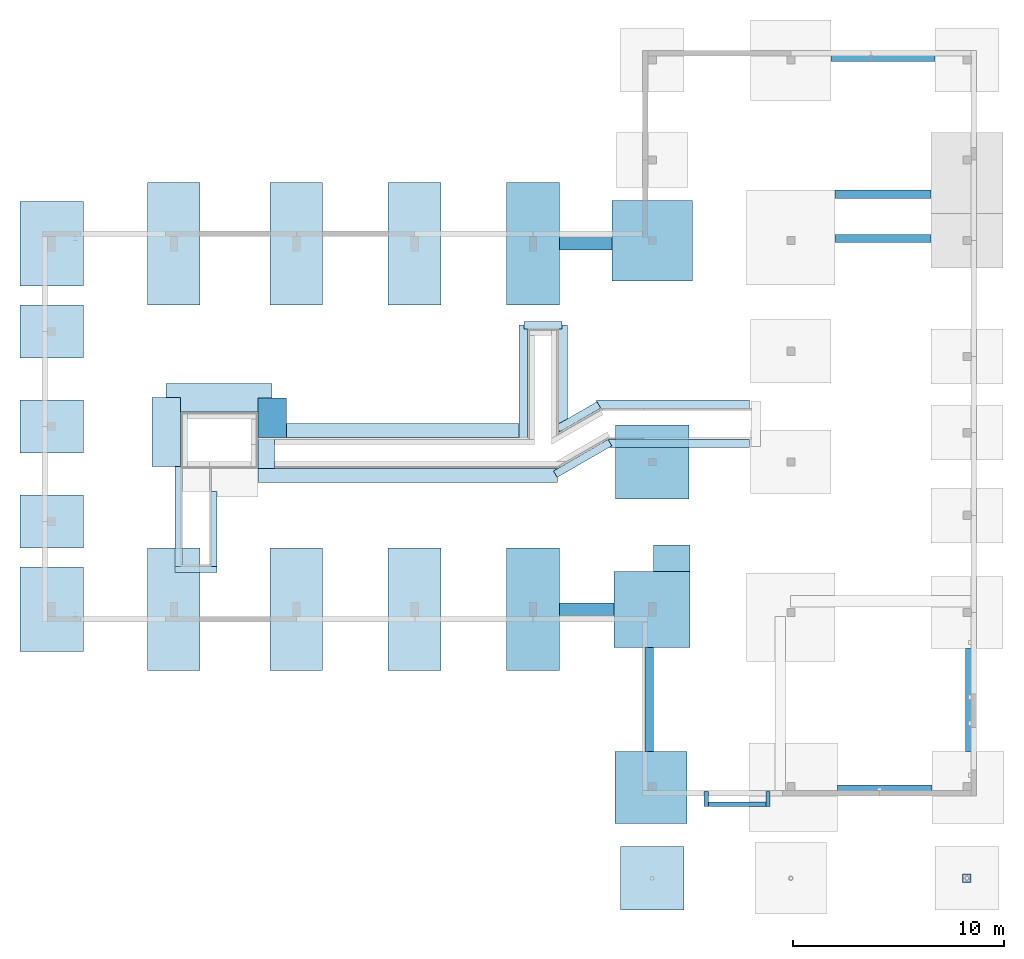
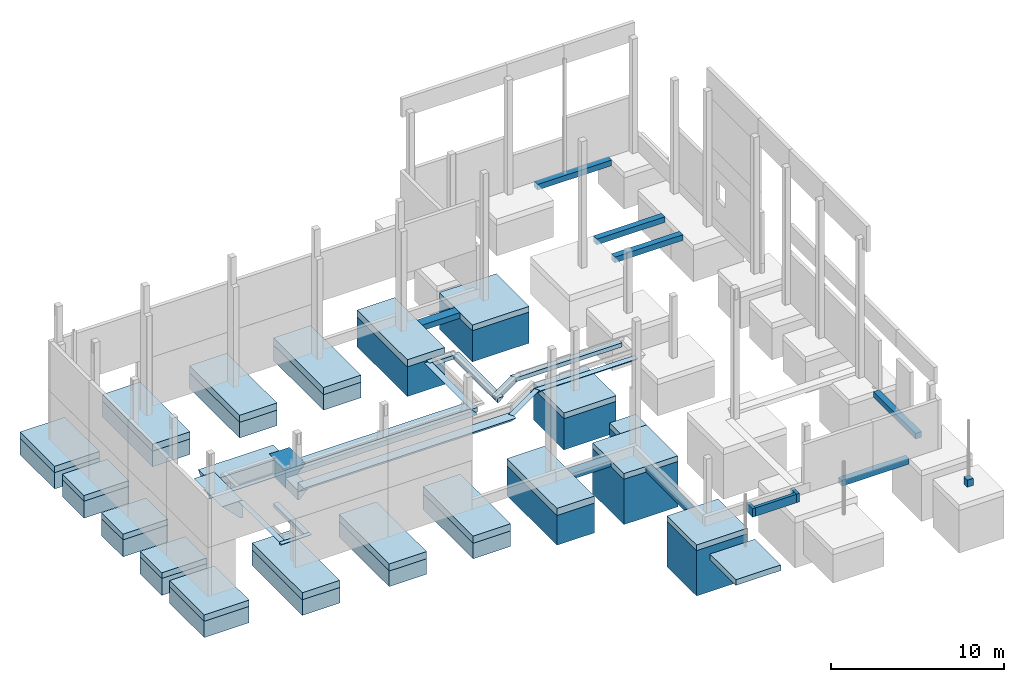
# One storey, part 7 of 12: 53 slabs, 11 beams, 1 column.
"""IFC4X3_ADD2 building model written with IfcOpenShell, lengths in millimetres."""

from ifc_helpers import new_model, si_unit, direction, frame, frame_2d, origin_with_axes, place, context, subcontext, project, spatial, polyline, rectangle, outline, extrude, source, transform, mapped, material, type_object, type_shapes, element, save


model = new_model("IFC4X3_ADD2")

# Units and contexts
model_context = context("Model", 3, precision=1e-05, world=origin_with_axes(), true_north=direction((0.0, 1.0)))
body_context = subcontext(model_context, "Body", "Model", "MODEL_VIEW")
ifc_project = project(units=[si_unit("LENGTHUNIT", "METRE", prefix="MILLI"), si_unit("AREAUNIT", "SQUARE_METRE"), si_unit("VOLUMEUNIT", "CUBIC_METRE"), si_unit("PLANEANGLEUNIT", "RADIAN"), si_unit("TIMEUNIT", "SECOND"), si_unit("MASSUNIT", "GRAM")], contexts=[model_context])

# Site, building, storey
site_placement = place(None, origin_with_axes())
site = spatial("IfcSite", under=ifc_project, at=site_placement, Name="Site", CompositionType="ELEMENT")
building_placement = place(site_placement, origin_with_axes())
building = spatial("IfcBuilding", under=site, at=building_placement, Name="IFC Building Story")
storey_placement = place(building_placement, frame((0.0, 0.0, -800.0), z_axis=(0.0, 0.0, 1.0), x_axis=(1.0, 0.0, 0.0)))
storey = spatial("IfcBuildingStorey", under=building, at=storey_placement, Name="FOND 00 (0)", Elevation=-800.0)

# Column
ifc_material_1 = material(Name="BS_16_Plot en béton armé coulé sur place")
column_type = type_object("IfcColumnType", Name="BS_16_SFO_LE_Colonne rectangulaire_coulé_B.A. 40x40cm", PredefinedType="NOTDEFINED")
shared_shape = source(origin_with_axes(), body_context, "Body", "SweptSolid", [
    extrude(rectangle(XDim=399.9999999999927, YDim=400.0, at=frame_2d((0.0, 5.95523630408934e-12), x_axis=(1.0, 0.0))), frame((48301.68947815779, -12385.0000000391, -790.0), z_axis=(0.0, 0.0, 1.0), x_axis=(1.0, 0.0, 0.0)), (0.0, 0.0, 1.0), 500.0),
])
type_shapes(column_type, [shared_shape])
column_placement = place(storey_placement, frame((0.0, 0.0, 800.0), z_axis=(0.0, 0.0, 1.0), x_axis=(1.0, 0.0, 0.0)))
element("IfcColumn", 1, at=column_placement, inside=storey, type_object=column_type, material=ifc_material_1, Name="BS_16_SFO_LE_Colonne rectangulaire_coulé:B.A. 40x40cm", ObjectType="B.A. 40x40cm", context=body_context, shape_type="MappedRepresentation", body=[
    mapped(shared_shape, transform((0.0, 0.0, 0.0))),
])

# Beams
beam_1_placement = place(storey_placement, frame((38786.6894775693, -8878.83973985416, 300.0), z_axis=(-1.0, 0.0, 0.0), x_axis=(0.0, 0.0, -1.0)))
element("IfcBeam", 2, at=beam_1_placement, inside=storey, material=ifc_material_1, Name="BS_17_SFO_LE_Poutre de fondation:B.A. 20x60cm", ObjectType="B.A. 20x60cm", context=body_context, shape_type="SweptSolid", body=[
    extrude(rectangle(XDim=600.0, YDim=200.000000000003, at=frame_2d((0.0, 5.95523630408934e-12), x_axis=(1.0, 0.0))), origin_with_axes(), (0.0, 0.0, 1.0), 2729.999999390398),
])
beam_2_placement = place(storey_placement, frame((38886.6894781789, -8978.839739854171, 300.0), z_axis=(0.0, 1.0, 0.0), x_axis=(0.0, 0.0, -1.0)))
element("IfcBeam", 3, at=beam_2_placement, inside=storey, material=ifc_material_1, Name="BS_17_SFO_LE_Poutre de fondation:B.A. 20x60cm", ObjectType="B.A. 20x60cm", context=body_context, shape_type="SweptSolid", body=[
    extrude(rectangle(XDim=600.0, YDim=200.000000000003, at=frame_2d((0.0, 5.95523630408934e-12), x_axis=(1.0, 0.0))), origin_with_axes(), (0.0, 0.0, 1.0), 709.1298265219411),
])
beam_3_placement = place(storey_placement, frame((35956.6894781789, -8978.839739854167, 300.0), z_axis=(0.0, 1.0, 0.0), x_axis=(0.0, 0.0, -1.0)))
element("IfcBeam", 4, at=beam_3_placement, inside=storey, material=ifc_material_1, Name="BS_17_SFO_LE_Poutre de fondation:B.A. 20x60cm", ObjectType="B.A. 20x60cm", context=body_context, shape_type="SweptSolid", body=[
    extrude(rectangle(XDim=600.0, YDim=200.000000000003, at=frame_2d((0.0, 5.95523630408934e-12), x_axis=(1.0, 0.0))), origin_with_axes(), (0.0, 0.0, 1.0), 709.1298265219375),
])
beam_4_placement = place(storey_placement, frame((29001.6894781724, 350.0, -200.0), z_axis=(1.0, 0.0, 0.0), x_axis=(0.0, 0.0, 1.0)))
element("IfcBeam", 5, at=beam_4_placement, inside=storey, material=ifc_material_1, Name="BS_17_SFO_LE_Poutre de fondation:B.A. 60x40cm", ObjectType="B.A. 60x40cm", context=body_context, shape_type="SweptSolid", body=[
    extrude(rectangle(XDim=400.0, YDim=600.000000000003, at=frame_2d((0.0, 5.95523630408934e-12), x_axis=(1.0, 0.0))), origin_with_axes(), (0.0, 0.0, 1.0), 2599.99999999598),
])
beam_5_placement = place(storey_placement, frame((29001.6894781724, 17650.0, -200.0), z_axis=(1.0, 0.0, 0.0), x_axis=(0.0, 0.0, 1.0)))
element("IfcBeam", 6, at=beam_5_placement, inside=storey, material=ifc_material_1, Name="BS_17_SFO_LE_Poutre de fondation:B.A. 60x40cm", ObjectType="B.A. 60x40cm", context=body_context, shape_type="SweptSolid", body=[
    extrude(rectangle(XDim=400.0, YDim=600.000000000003, at=frame_2d((0.0, 5.95523630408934e-12), x_axis=(1.0, 0.0))), origin_with_axes(), (0.0, 0.0, 1.0), 2500.000000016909),
])
beam_6_placement = place(storey_placement, frame((46801.68947815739, 26483.5000000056, -200.0), z_axis=(-1.0, 0.0, 0.0), x_axis=(0.0, -1.0, 0.0)))
element("IfcBeam", 7, at=beam_6_placement, inside=storey, material=ifc_material_1, Name="BS_17_SFO_LE_Poutre de fondation:B.A. 40x40cm", ObjectType="B.A. 40x40cm", context=body_context, shape_type="SweptSolid", body=[
    extrude(rectangle(XDim=400.0, YDim=400.000000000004, at=frame_2d((0.0, 5.95523630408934e-12), x_axis=(1.0, 0.0))), origin_with_axes(), (0.0, 0.0, 1.0), 4939.99999999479),
])
beam_7_placement = place(storey_placement, frame((46656.68947815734, -8163.500086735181, -200.0), z_axis=(-1.0, 0.0, 0.0), x_axis=(0.0, -1.0, 0.0)))
element("IfcBeam", 8, at=beam_7_placement, inside=storey, material=ifc_material_1, Name="BS_17_SFO_LE_Poutre de fondation:B.A. 40x40cm", ObjectType="B.A. 40x40cm", context=body_context, shape_type="SweptSolid", body=[
    extrude(rectangle(XDim=400.0, YDim=400.000000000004, at=frame_2d((0.0, 5.95523630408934e-12), x_axis=(1.0, 0.0))), origin_with_axes(), (0.0, 0.0, 1.0), 4479.999999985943),
])
beam_8_placement = place(storey_placement, frame((48435.1894781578, -1500.00000000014, -200.0), z_axis=(0.0, -1.0, 0.0), x_axis=(1.0, 0.0, 0.0)))
element("IfcBeam", 9, at=beam_8_placement, inside=storey, material=ifc_material_1, Name="BS_17_SFO_LE_Poutre de fondation:B.A. 40x40cm", ObjectType="B.A. 40x40cm", context=body_context, shape_type="SweptSolid", body=[
    extrude(rectangle(XDim=400.0, YDim=400.000000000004, at=frame_2d((0.0, 5.95523630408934e-12), x_axis=(1.0, 0.0))), origin_with_axes(), (0.0, 0.0, 1.0), 4880.00008672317),
])
beam_9_placement = place(storey_placement, frame((33268.1894781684, -1450.000000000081, -200.0), z_axis=(0.0, -1.0, 0.0), x_axis=(1.0, 0.0, 0.0)))
element("IfcBeam", 10, at=beam_9_placement, inside=storey, material=ifc_material_1, Name="BS_17_SFO_LE_Poutre de fondation:B.A. 40x40cm", ObjectType="B.A. 40x40cm", context=body_context, shape_type="SweptSolid", body=[
    extrude(rectangle(XDim=400.0, YDim=400.000000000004, at=frame_2d((0.0, 5.95523630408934e-12), x_axis=(1.0, 0.0))), origin_with_axes(), (0.0, 0.0, 1.0), 4930.000086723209),
])
for number, where, z_axis, x_axis in (
    (11, (46601.68947815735, 19995.0000000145, -200.0), (-1.0, 0.0, 0.0), (0.0, -1.0, 0.0)),
    (12, (46601.68947815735, 17905.0000000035, -200.0), (-1.0, 0.0, 0.0), (0.0, -1.0, 0.0)),
):
    element("IfcBeam", number, at=place(storey_placement, frame(where, z_axis=z_axis, x_axis=x_axis)), inside=storey, material=ifc_material_1, Name="BS_17_SFO_LE_Poutre de fondation:B.A. 40x40cm", ObjectType="B.A. 40x40cm", context=body_context, shape_type="SweptSolid", body=[
        extrude(rectangle(XDim=400.0, YDim=400.000000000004, at=frame_2d((0.0, 5.95523630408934e-12), x_axis=(1.0, 0.0))), origin_with_axes(), (0.0, 0.0, 1.0), 4539.999999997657),
    ])

# Slabs
slab_type_1 = type_object("IfcSlabType", Name="BS_16_Plot en béton armé coulé sur place 450", PredefinedType="FLOOR", material=ifc_material_1)
for number, where, z_axis, x_axis in (
    (13, (3470.0, 19650.0, -450.0), (0.0, 0.0, 1.0), (0.0, -1.0, 0.0)),
    (14, (3470.0, 2350.0, -450.0), (0.0, 0.0, 1.0), (0.0, -1.0, 0.0)),
):
    element("IfcSlab", number, at=place(storey_placement, frame(where, z_axis=z_axis, x_axis=x_axis)), inside=storey, type_object=slab_type_1, Name="BS_17_SFO_UN_Plot rectangulaire:B.A. 300x400x45cm", ObjectType="BS_17_SFO_UN_Plot rectangulaire:B.A. 300x400x45cm", PredefinedType="BASESLAB", context=body_context, shape_type="SweptSolid", body=[
        extrude(rectangle(XDim=4000.0, YDim=3000.0, at=frame_2d((0.0, 5.95523630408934e-12), x_axis=(-1.0, 0.0))), frame((2000.0, 1500.0, 0.0), z_axis=(0.0, 0.0, 1.0), x_axis=(1.0, 0.0, 0.0)), (0.0, 0.0, 1.0), 450.0),
    ])
slab_type_2 = type_object("IfcSlabType", Name="BS_16_Plot en béton armé coulé sur place 400", PredefinedType="FLOOR", material=ifc_material_1)
for number, where, z_axis, x_axis in (
    (15, (3470.0, 3250.0, -400.0), (0.0, 0.0, 1.0), (1.0, 0.0, 0.0)),
    (16, (3470.0, 7750.0, -400.0), (0.0, 0.0, 1.0), (1.0, 0.0, 0.0)),
    (17, (3470.0, 12250.0, -400.0), (0.0, 0.0, 1.0), (1.0, 0.0, 0.0)),
):
    element("IfcSlab", number, at=place(storey_placement, frame(where, z_axis=z_axis, x_axis=x_axis)), inside=storey, type_object=slab_type_2, Name="BS_17_SFO_UN_Plot rectangulaire:B.A. 300x250x40cm", ObjectType="BS_17_SFO_UN_Plot rectangulaire:B.A. 300x250x40cm", PredefinedType="BASESLAB", context=body_context, shape_type="SweptSolid", body=[
        extrude(rectangle(XDim=3000.0, YDim=2500.0, at=frame_2d((0.0, 5.95523630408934e-12), x_axis=(1.0, 0.0))), frame((1500.0, 1250.0, 0.0), z_axis=(0.0, 0.0, 1.0), x_axis=(1.0, 0.0, 0.0)), (0.0, 0.0, 1.0), 400.0),
    ])
slab_1_placement = place(storey_placement, frame((31601.68947816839, -1450.0, -400.0), z_axis=(0.0, 0.0, 1.0), x_axis=(1.0, 0.0, 0.0)))
element("IfcSlab", 18, at=slab_1_placement, inside=storey, type_object=slab_type_2, Name="BS_17_SFO_UN_Plot rectangulaire:B.A. 485x360x40cm", ObjectType="BS_17_SFO_UN_Plot rectangulaire:B.A. 485x360x40cm", PredefinedType="BASESLAB", context=body_context, shape_type="SweptSolid", body=[
    extrude(rectangle(XDim=3600.0, YDim=3600.0, at=frame_2d((0.0, 5.95523630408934e-12), x_axis=(0.0, 1.0))), frame((1800.0, 1800.0, 0.0), z_axis=(0.0, 0.0, 1.0), x_axis=(1.0, 0.0, 0.0)), (0.0, 0.0, 1.0), 400.0),
])
slab_2_placement = place(storey_placement, frame((31651.6894781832, 9078.839653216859, -400.0), z_axis=(0.0, 0.0, 1.0), x_axis=(0.0, -1.0, 0.0)))
element("IfcSlab", 19, at=slab_2_placement, inside=storey, type_object=slab_type_2, Name="BS_17_SFO_UN_Plot rectangulaire:B.A. 350x350x40cm", ObjectType="BS_17_SFO_UN_Plot rectangulaire:B.A. 350x350x40cm", PredefinedType="BASESLAB", context=body_context, shape_type="SweptSolid", body=[
    extrude(rectangle(XDim=3499.999999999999, YDim=3499.999999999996, at=frame_2d((0.0, 5.95523630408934e-12), x_axis=(-1.0, 0.0))), frame((1749.999999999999, 1749.999999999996, 0.0), z_axis=(0.0, 0.0, 1.0), x_axis=(1.0, 0.0, 0.0)), (0.0, 0.0, 1.0), 400.0),
])
slab_3_placement = place(storey_placement, frame((31646.6894781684, -9780.00008672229, -400.0), z_axis=(0.0, 0.0, 1.0), x_axis=(1.0, 0.0, 0.0)))
element("IfcSlab", 20, at=slab_3_placement, inside=storey, type_object=slab_type_2, Name="BS_17_SFO_UN_Plot rectangulaire:B.A. 340x340x40cm", ObjectType="BS_17_SFO_UN_Plot rectangulaire:B.A. 340x340x40cm", PredefinedType="BASESLAB", context=body_context, shape_type="SweptSolid", body=[
    extrude(rectangle(XDim=3400.0, YDim=3400.0, at=frame_2d((0.0, 5.95523630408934e-12), x_axis=(0.0, 1.0))), frame((1700.0, 1700.0, 0.0), z_axis=(0.0, 0.0, 1.0), x_axis=(1.0, 0.0, 0.0)), (0.0, 0.0, 1.0), 400.0),
])
slab_4_placement = place(storey_placement, frame((31501.6894781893, 15900.0, -400.0), z_axis=(0.0, 0.0, 1.0), x_axis=(1.0, 0.0, 0.0)))
element("IfcSlab", 21, at=slab_4_placement, inside=storey, type_object=slab_type_2, Name="BS_17_SFO_UN_Plot rectangulaire:B.A. 380x380x40cm", ObjectType="BS_17_SFO_UN_Plot rectangulaire:B.A. 380x380x40cm", PredefinedType="BASESLAB", context=body_context, shape_type="SweptSolid", body=[
    extrude(rectangle(XDim=3800.0, YDim=3800.0, at=frame_2d((0.0, 5.95523630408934e-12), x_axis=(0.0, 1.0))), frame((1900.0, 1900.0, 0.0), z_axis=(0.0, 0.0, 1.0), x_axis=(1.0, 0.0, 0.0)), (0.0, 0.0, 1.0), 400.0),
])
slab_5_placement = place(storey_placement, frame((33451.6894781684, 2149.99999999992, -400.0), z_axis=(0.0, 0.0, 1.0), x_axis=(1.0, 0.0, 0.0)))
element("IfcSlab", 22, at=slab_5_placement, inside=storey, type_object=slab_type_2, Name="BS_17_SFO_UN_Plot rectangulaire:B.A. 175x125x40cm", ObjectType="BS_17_SFO_UN_Plot rectangulaire:B.A. 175x125x40cm", PredefinedType="BASESLAB", context=body_context, shape_type="SweptSolid", body=[
    extrude(rectangle(XDim=1750.0, YDim=1250.0, at=frame_2d((0.0, 5.95523630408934e-12), x_axis=(1.0, 0.0))), frame((875.0, 625.0, 0.0), z_axis=(0.0, 0.0, 1.0), x_axis=(1.0, 0.0, 0.0)), (0.0, 0.0, 1.0), 400.0),
])
slab_6_placement = place(storey_placement, frame((31901.6894781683, -13888.486405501, -450.0), z_axis=(0.0, 0.0, 1.0), x_axis=(1.0, 0.0, 0.0)))
element("IfcSlab", 23, at=slab_6_placement, inside=storey, type_object=slab_type_2, Name="BS_17_SFO_UN_Plot rectangulaire:B.A. 300x300x40cm", ObjectType="BS_17_SFO_UN_Plot rectangulaire:B.A. 300x300x40cm", PredefinedType="BASESLAB", context=body_context, shape_type="SweptSolid", body=[
    extrude(rectangle(XDim=3000.0, YDim=3000.0, at=frame_2d((0.0, 5.95523630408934e-12), x_axis=(0.0, 1.0))), frame((1500.0, 1500.0, 0.0), z_axis=(0.0, 0.0, 1.0), x_axis=(1.0, 0.0, 0.0)), (0.0, 0.0, 1.0), 400.0),
])
ifc_material_2 = material(Name="BS_16_Plot en béton maigre")
slab_type_3 = type_object("IfcSlabType", Name="BS_16_Plot en béton maigre 1100", PredefinedType="FLOOR", material=ifc_material_2)
slab_7_placement = place(storey_placement, frame((9501.6894781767, 20550.0, -1600.0), z_axis=(0.0, 0.0, 1.0), x_axis=(0.0, -1.0, 0.0)))
element("IfcSlab", 24, at=slab_7_placement, inside=storey, type_object=slab_type_3, Name="BS_17_SFO_UN_Plot rectangulaire:B.A. 250x580x110cm (béton maigre)", ObjectType="BS_17_SFO_UN_Plot rectangulaire:B.A. 250x580x110cm (béton maigre)", PredefinedType="BASESLAB", context=body_context, shape_type="SweptSolid", body=[
    extrude(rectangle(XDim=5800.0, YDim=2500.0, at=frame_2d((0.0, 5.95523630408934e-12), x_axis=(-1.0, 0.0))), frame((2900.0, 1250.0, 0.0), z_axis=(0.0, 0.0, 1.0), x_axis=(1.0, 0.0, 0.0)), (0.0, 0.0, 1.0), 1100.0),
])
slab_8_placement = place(storey_placement, frame((15301.6894781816, 20550.0, -1600.0), z_axis=(0.0, 0.0, 1.0), x_axis=(0.0, -1.0, 0.0)))
element("IfcSlab", 25, at=slab_8_placement, inside=storey, type_object=slab_type_3, Name="BS_17_SFO_UN_Plot rectangulaire:B.A. 250x580x110cm (béton maigre)", ObjectType="BS_17_SFO_UN_Plot rectangulaire:B.A. 250x580x110cm (béton maigre)", PredefinedType="BASESLAB", context=body_context, shape_type="SweptSolid", body=[
    extrude(rectangle(XDim=5800.0, YDim=2500.000000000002, at=frame_2d((0.0, 5.95523630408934e-12), x_axis=(-1.0, 0.0))), frame((2900.0, 1250.0, 0.0), z_axis=(0.0, 0.0, 1.0), x_axis=(1.0, 0.0, 0.0)), (0.0, 0.0, 1.0), 1100.0),
])
for number, where, z_axis, x_axis in (
    (26, (20901.6894781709, 20550.0, -1600.0), (0.0, 0.0, 1.0), (0.0, -1.0, 0.0)),
    (27, (9501.6894781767, 3250.0, -1600.0), (0.0, 0.0, 1.0), (0.0, -1.0, 0.0)),
):
    element("IfcSlab", number, at=place(storey_placement, frame(where, z_axis=z_axis, x_axis=x_axis)), inside=storey, type_object=slab_type_3, Name="BS_17_SFO_UN_Plot rectangulaire:B.A. 250x580x110cm (béton maigre)", ObjectType="BS_17_SFO_UN_Plot rectangulaire:B.A. 250x580x110cm (béton maigre)", PredefinedType="BASESLAB", context=body_context, shape_type="SweptSolid", body=[
        extrude(rectangle(XDim=5800.0, YDim=2500.0, at=frame_2d((0.0, 5.95523630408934e-12), x_axis=(-1.0, 0.0))), frame((2900.0, 1250.0, 0.0), z_axis=(0.0, 0.0, 1.0), x_axis=(1.0, 0.0, 0.0)), (0.0, 0.0, 1.0), 1100.0),
    ])
slab_9_placement = place(storey_placement, frame((15301.6894781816, 3250.0, -1600.0), z_axis=(0.0, 0.0, 1.0), x_axis=(0.0, -1.0, 0.0)))
element("IfcSlab", 28, at=slab_9_placement, inside=storey, type_object=slab_type_3, Name="BS_17_SFO_UN_Plot rectangulaire:B.A. 250x580x110cm (béton maigre)", ObjectType="BS_17_SFO_UN_Plot rectangulaire:B.A. 250x580x110cm (béton maigre)", PredefinedType="BASESLAB", context=body_context, shape_type="SweptSolid", body=[
    extrude(rectangle(XDim=5800.0, YDim=2500.000000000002, at=frame_2d((0.0, 5.95523630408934e-12), x_axis=(-1.0, 0.0))), frame((2900.0, 1250.0, 0.0), z_axis=(0.0, 0.0, 1.0), x_axis=(1.0, 0.0, 0.0)), (0.0, 0.0, 1.0), 1100.0),
])
slab_10_placement = place(storey_placement, frame((20901.6894781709, 3250.0, -1600.0), z_axis=(0.0, 0.0, 1.0), x_axis=(0.0, -1.0, 0.0)))
element("IfcSlab", 29, at=slab_10_placement, inside=storey, type_object=slab_type_3, Name="BS_17_SFO_UN_Plot rectangulaire:B.A. 250x580x110cm (béton maigre)", ObjectType="BS_17_SFO_UN_Plot rectangulaire:B.A. 250x580x110cm (béton maigre)", PredefinedType="BASESLAB", context=body_context, shape_type="SweptSolid", body=[
    extrude(rectangle(XDim=5800.0, YDim=2500.0, at=frame_2d((0.0, 5.95523630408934e-12), x_axis=(-1.0, 0.0))), frame((2900.0, 1250.0, 0.0), z_axis=(0.0, 0.0, 1.0), x_axis=(1.0, 0.0, 0.0)), (0.0, 0.0, 1.0), 1100.0),
])
slab_type_4 = type_object("IfcSlabType", Name="BS_16_Plot en béton armé coulé sur place 500", PredefinedType="FLOOR", material=ifc_material_1)
slab_11_placement = place(storey_placement, frame((15301.6894781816, 20550.0, -500.0), z_axis=(0.0, 0.0, 1.0), x_axis=(0.0, -1.0, 0.0)))
element("IfcSlab", 30, at=slab_11_placement, inside=storey, type_object=slab_type_4, Name="BS_17_SFO_UN_Plot rectangulaire:B.A. 250x580x50cm", ObjectType="BS_17_SFO_UN_Plot rectangulaire:B.A. 250x580x50cm", PredefinedType="BASESLAB", context=body_context, shape_type="SweptSolid", body=[
    extrude(rectangle(XDim=5800.0, YDim=2500.000000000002, at=frame_2d((0.0, 5.95523630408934e-12), x_axis=(-1.0, 0.0))), frame((2900.0, 1250.0, 0.0), z_axis=(0.0, 0.0, 1.0), x_axis=(1.0, 0.0, 0.0)), (0.0, 0.0, 1.0), 500.0),
])
for number, where, z_axis, x_axis in (
    (31, (20901.6894781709, 20550.0, -500.0), (0.0, 0.0, 1.0), (0.0, -1.0, 0.0)),
    (32, (26501.6894781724, 20550.0, -500.0), (0.0, 0.0, 1.0), (0.0, -1.0, 0.0)),
    (33, (9501.689478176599, 3250.0, -500.0), (0.0, 0.0, 1.0), (0.0, -1.0, 0.0)),
):
    element("IfcSlab", number, at=place(storey_placement, frame(where, z_axis=z_axis, x_axis=x_axis)), inside=storey, type_object=slab_type_4, Name="BS_17_SFO_UN_Plot rectangulaire:B.A. 250x580x50cm", ObjectType="BS_17_SFO_UN_Plot rectangulaire:B.A. 250x580x50cm", PredefinedType="BASESLAB", context=body_context, shape_type="SweptSolid", body=[
        extrude(rectangle(XDim=5800.0, YDim=2500.0, at=frame_2d((0.0, 5.95523630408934e-12), x_axis=(-1.0, 0.0))), frame((2900.0, 1250.0, 0.0), z_axis=(0.0, 0.0, 1.0), x_axis=(1.0, 0.0, 0.0)), (0.0, 0.0, 1.0), 500.0),
    ])
slab_12_placement = place(storey_placement, frame((15301.6894781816, 3250.0, -500.0), z_axis=(0.0, 0.0, 1.0), x_axis=(0.0, -1.0, 0.0)))
element("IfcSlab", 34, at=slab_12_placement, inside=storey, type_object=slab_type_4, Name="BS_17_SFO_UN_Plot rectangulaire:B.A. 250x580x50cm", ObjectType="BS_17_SFO_UN_Plot rectangulaire:B.A. 250x580x50cm", PredefinedType="BASESLAB", context=body_context, shape_type="SweptSolid", body=[
    extrude(rectangle(XDim=5800.0, YDim=2500.000000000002, at=frame_2d((0.0, 5.95523630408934e-12), x_axis=(-1.0, 0.0))), frame((2900.0, 1250.0, 0.0), z_axis=(0.0, 0.0, 1.0), x_axis=(1.0, 0.0, 0.0)), (0.0, 0.0, 1.0), 500.0),
])
for number, where, z_axis, x_axis in (
    (35, (20901.6894781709, 3250.0, -500.0), (0.0, 0.0, 1.0), (0.0, -1.0, 0.0)),
    (36, (26501.6894781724, 3250.0, -500.0), (0.0, 0.0, 1.0), (0.0, -1.0, 0.0)),
    (37, (9501.6894781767, 20550.0, -500.0), (0.0, 0.0, 1.0), (0.0, -1.0, 0.0)),
):
    element("IfcSlab", number, at=place(storey_placement, frame(where, z_axis=z_axis, x_axis=x_axis)), inside=storey, type_object=slab_type_4, Name="BS_17_SFO_UN_Plot rectangulaire:B.A. 250x580x50cm", ObjectType="BS_17_SFO_UN_Plot rectangulaire:B.A. 250x580x50cm", PredefinedType="BASESLAB", context=body_context, shape_type="SweptSolid", body=[
        extrude(rectangle(XDim=5800.0, YDim=2500.0, at=frame_2d((0.0, 5.95523630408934e-12), x_axis=(-1.0, 0.0))), frame((2900.0, 1250.0, 0.0), z_axis=(0.0, 0.0, 1.0), x_axis=(1.0, 0.0, 0.0)), (0.0, 0.0, 1.0), 500.0),
    ])
slab_type_5 = type_object("IfcSlabType", Name="BS_16_Plot en béton maigre 2100", PredefinedType="FLOOR", material=ifc_material_2)
for number, where, z_axis, x_axis in (
    (38, (26501.6894781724, 20550.0, -2600.0), (0.0, 0.0, 1.0), (0.0, -1.0, 0.0)),
    (39, (26501.6894781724, 3250.0, -2600.0), (0.0, 0.0, 1.0), (0.0, -1.0, 0.0)),
):
    element("IfcSlab", number, at=place(storey_placement, frame(where, z_axis=z_axis, x_axis=x_axis)), inside=storey, type_object=slab_type_5, Name="BS_17_SFO_UN_Plot rectangulaire:B.A. 250x580x210cm (béton maigre)", ObjectType="BS_17_SFO_UN_Plot rectangulaire:B.A. 250x580x210cm (béton maigre)", PredefinedType="BASESLAB", context=body_context, shape_type="SweptSolid", body=[
        extrude(rectangle(XDim=5800.0, YDim=2500.0, at=frame_2d((0.0, 5.95523630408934e-12), x_axis=(-1.0, 0.0))), frame((2900.0, 1250.0, 0.0), z_axis=(0.0, 0.0, 1.0), x_axis=(1.0, 0.0, 0.0)), (0.0, 0.0, 1.0), 2100.0),
    ])
slab_type_6 = type_object("IfcSlabType", Name="BS_16_Plot en béton maigre 1150", PredefinedType="FLOOR", material=ifc_material_2)
for number, where, z_axis, x_axis in (
    (40, (3470.0, 19650.0, -1600.0), (0.0, 0.0, 1.0), (0.0, -1.0, 0.0)),
    (41, (3470.0, 2350.0, -1600.0), (0.0, 0.0, 1.0), (0.0, -1.0, 0.0)),
):
    element("IfcSlab", number, at=place(storey_placement, frame(where, z_axis=z_axis, x_axis=x_axis)), inside=storey, type_object=slab_type_6, Name="BS_17_SFO_UN_Plot rectangulaire:B.A. 300x400x115cm (béton maigre)", ObjectType="BS_17_SFO_UN_Plot rectangulaire:B.A. 300x400x115cm (béton maigre)", PredefinedType="BASESLAB", context=body_context, shape_type="SweptSolid", body=[
        extrude(rectangle(XDim=4000.0, YDim=3000.0, at=frame_2d((0.0, 5.95523630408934e-12), x_axis=(-1.0, 0.0))), frame((2000.0, 1500.0, 0.0), z_axis=(0.0, 0.0, 1.0), x_axis=(1.0, 0.0, 0.0)), (0.0, 0.0, 1.0), 1150.0),
    ])
slab_type_7 = type_object("IfcSlabType", Name="BS_16_Plot en béton maigre 1200", PredefinedType="FLOOR", material=ifc_material_2)
for number, where, z_axis, x_axis in (
    (42, (3470.0, 12250.0, -1600.0), (0.0, 0.0, 1.0), (1.0, 0.0, 0.0)),
    (43, (3470.0, 7750.0, -1600.0), (0.0, 0.0, 1.0), (1.0, 0.0, 0.0)),
    (44, (3470.0, 3250.0, -1600.0), (0.0, 0.0, 1.0), (1.0, 0.0, 0.0)),
):
    element("IfcSlab", number, at=place(storey_placement, frame(where, z_axis=z_axis, x_axis=x_axis)), inside=storey, type_object=slab_type_7, Name="BS_17_SFO_UN_Plot rectangulaire:B.A. 300x250x120cm (béton maigre)", ObjectType="BS_17_SFO_UN_Plot rectangulaire:B.A. 300x250x120cm (béton maigre)", PredefinedType="BASESLAB", context=body_context, shape_type="SweptSolid", body=[
        extrude(rectangle(XDim=3000.0, YDim=2500.0, at=frame_2d((0.0, 5.95523630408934e-12), x_axis=(1.0, 0.0))), frame((1500.0, 1250.0, 0.0), z_axis=(0.0, 0.0, 1.0), x_axis=(1.0, 0.0, 0.0)), (0.0, 0.0, 1.0), 1200.0),
    ])
slab_type_8 = type_object("IfcSlabType", Name="BS_16_Plot en béton maigre 3200", PredefinedType="FLOOR", material=ifc_material_2)
slab_13_placement = place(storey_placement, frame((31601.68947816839, -1450.0, -3600.0), z_axis=(0.0, 0.0, 1.0), x_axis=(1.0, 0.0, 0.0)))
element("IfcSlab", 45, at=slab_13_placement, inside=storey, type_object=slab_type_8, Name="BS_17_SFO_UN_Plot rectangulaire:B.A. 360x360x320cm (béton maigre)", ObjectType="BS_17_SFO_UN_Plot rectangulaire:B.A. 360x360x320cm (béton maigre)", PredefinedType="BASESLAB", context=body_context, shape_type="SweptSolid", body=[
    extrude(rectangle(XDim=3600.0, YDim=3600.0, at=frame_2d((0.0, 5.95523630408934e-12), x_axis=(0.0, 1.0))), frame((1800.0, 1800.0, 0.0), z_axis=(0.0, 0.0, 1.0), x_axis=(1.0, 0.0, 0.0)), (0.0, 0.0, 1.0), 3200.0),
])
slab_14_placement = place(storey_placement, frame((31646.6894781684, -9780.0000867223, -3600.0), z_axis=(0.0, 0.0, 1.0), x_axis=(1.0, 0.0, 0.0)))
element("IfcSlab", 46, at=slab_14_placement, inside=storey, type_object=slab_type_8, Name="BS_17_SFO_UN_Plot rectangulaire:B.A. 340x340x320cm (béton maigre)", ObjectType="BS_17_SFO_UN_Plot rectangulaire:B.A. 340x340x320cm (béton maigre)", PredefinedType="BASESLAB", context=body_context, shape_type="SweptSolid", body=[
    extrude(rectangle(XDim=3400.0, YDim=3400.0, at=frame_2d((0.0, 5.95523630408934e-12), x_axis=(0.0, 1.0))), frame((1700.0, 1700.0, 0.0), z_axis=(0.0, 0.0, 1.0), x_axis=(1.0, 0.0, 0.0)), (0.0, 0.0, 1.0), 3200.0),
])
slab_type_9 = type_object("IfcSlabType", Name="BS_16_Plot en béton maigre 2200", PredefinedType="FLOOR", material=ifc_material_2)
slab_15_placement = place(storey_placement, frame((31501.6894781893, 15900.0, -2600.0), z_axis=(0.0, 0.0, 1.0), x_axis=(1.0, 0.0, 0.0)))
element("IfcSlab", 47, at=slab_15_placement, inside=storey, type_object=slab_type_9, Name="BS_17_SFO_UN_Plot rectangulaire:B.A. 380x380x220cm (béton maigre)", ObjectType="BS_17_SFO_UN_Plot rectangulaire:B.A. 380x380x220cm (béton maigre)", PredefinedType="BASESLAB", context=body_context, shape_type="SweptSolid", body=[
    extrude(rectangle(XDim=3800.0, YDim=3800.0, at=frame_2d((0.0, 5.95523630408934e-12), x_axis=(0.0, 1.0))), frame((1900.0, 1900.0, 0.0), z_axis=(0.0, 0.0, 1.0), x_axis=(1.0, 0.0, 0.0)), (0.0, 0.0, 1.0), 2200.0),
])
slab_16_placement = place(storey_placement, frame((31651.6894781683, 5578.83965321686, -2600.0), z_axis=(0.0, 0.0, 1.0), x_axis=(1.0, 0.0, 0.0)))
element("IfcSlab", 48, at=slab_16_placement, inside=storey, type_object=slab_type_9, Name="BS_17_SFO_UN_Plot rectangulaire:B.A. 350x350x220cm (béton maigre)", ObjectType="BS_17_SFO_UN_Plot rectangulaire:B.A. 350x350x220cm (béton maigre)", PredefinedType="BASESLAB", context=body_context, shape_type="SweptSolid", body=[
    extrude(rectangle(XDim=3499.999999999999, YDim=3500.0, at=frame_2d((0.0, 5.95523630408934e-12), x_axis=(0.0, 1.0))), frame((1749.999999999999, 1749.999999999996, 0.0), z_axis=(0.0, 0.0, 1.0), x_axis=(1.0, 0.0, 0.0)), (0.0, 0.0, 1.0), 2200.0),
])
ifc_material_3 = material(Name="BS_13_Sable stabilisé(Remblai)")
slab_type_10 = type_object("IfcSlabType", Name="BS_13_Sable stabilisé(Remblai) 0", PredefinedType="FLOOR", material=ifc_material_3)
slab_17_placement = place(storey_placement, frame((10801.6894781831, 7099.99999999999, -110.0000000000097), z_axis=(0.0, 0.0, 1.0), x_axis=(0.0, -1.0, 0.0)))
element("IfcSlab", 49, at=slab_17_placement, inside=storey, type_object=slab_type_10, Name="Remblai 10:Remblai 10", ObjectType="Remblai 10:Remblai 10", PredefinedType="FLOOR", context=body_context, shape_type="SweptSolid", body=[
    extrude(outline(polyline([(-124.9999999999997, 12.50000000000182), (-124.9999999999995, 112.5), (124.9999999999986, 112.5), (125.0, -237.4999999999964), (-124.9999999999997, 12.50000000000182)])), frame((4729.99999999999, 237.4999999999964, 124.9999999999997), z_axis=(-1.0, 0.0, 0.0), x_axis=(0.0, 0.0, 1.0)), (0.0, 0.0, 1.0), 4729.99999999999),
])
slab_18_placement = place(storey_placement, frame((12451.6894781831, 5919.04869449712, -110.0000000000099), z_axis=(0.0, 0.0, 1.0), x_axis=(0.0, -1.0, 0.0)))
element("IfcSlab", 50, at=slab_18_placement, inside=storey, type_object=slab_type_10, Name="Remblai 12:Remblai 12", ObjectType="Remblai 12:Remblai 12", PredefinedType="FLOOR", context=body_context, shape_type="SweptSolid", body=[
    extrude(outline(polyline([(-124.9999999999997, -12.5), (125.0, 237.5), (124.9999999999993, -112.4999999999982), (-124.9999999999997, -112.4999999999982), (-124.9999999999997, -12.5)])), frame((3549.04869449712, 112.4999999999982, 124.9999999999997), z_axis=(-1.0, 0.0, 0.0), x_axis=(0.0, 0.0, 1.0)), (0.0, 0.0, 1.0), 3549.04869449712),
])
slab_19_placement = place(storey_placement, frame((10390.0819107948, 9680.000000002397, -1109.999999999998), z_axis=(0.0, 0.0, 1.0), x_axis=(1.0, 0.0, 0.0)))
element("IfcSlab", 51, at=slab_19_placement, inside=storey, type_object=slab_type_10, Name="Remblai 7:Remblai 7", ObjectType="Remblai 7:Remblai 7", PredefinedType="FLOOR", context=body_context, shape_type="SweptSolid", body=[
    extrude(outline(polyline([(624.9999999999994, -987.5000000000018), (-624.9999999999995, 262.5), (-624.9999999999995, 362.5), (624.9999999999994, 362.4999999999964), (624.9999999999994, -987.5000000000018)])), frame((0.0, 362.5, 624.9999999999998), z_axis=(1.0, 0.0, 0.0), x_axis=(0.0, 0.0, 1.0)), (0.0, 0.0, 1.0), 5013.31896814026),
])
slab_20_placement = place(storey_placement, frame((10801.6894781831, 2088.000000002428, -41.99999999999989), z_axis=(0.0, 0.0, 1.0), x_axis=(1.0, 0.0, 0.0)))
element("IfcSlab", 52, at=slab_20_placement, inside=storey, type_object=slab_type_10, Name="Remblai 13:Remblai 13", ObjectType="Remblai 13:Remblai 13", PredefinedType="FLOOR", context=body_context, shape_type="SweptSolid", body=[
    extrude(outline(polyline([(-91.0000000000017, 4.499999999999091), (91.00000000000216, 186.5000000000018), (91.00000000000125, -95.50000000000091), (-91.0000000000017, -95.50000000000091), (-91.0000000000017, 4.499999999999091)])), frame((0.0, 186.5000000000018, 91.0000000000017), z_axis=(1.0, 0.0, 0.0), x_axis=(0.0, 0.0, 1.0)), (0.0, 0.0, 1.0), 2000.00000000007),
])
slab_21_placement = place(storey_placement, frame((9721.6894781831, 10370.24739738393, -1109.999999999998), z_axis=(0.0, 0.0, 1.0), x_axis=(0.0, -1.0, 0.0)))
element("IfcSlab", 53, at=slab_21_placement, inside=storey, type_object=slab_type_10, Name="Remblai 4:Remblai 4", ObjectType="Remblai 4:Remblai 4", PredefinedType="FLOOR", context=body_context, shape_type="SweptSolid", body=[
    extrude(outline(polyline([(624.9999999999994, -987.5000000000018), (-624.9999999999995, 262.5), (-624.9999999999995, 362.5), (624.9999999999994, 362.4999999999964), (624.9999999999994, -987.5000000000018)])), frame((3270.24739738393, 987.5, 625.0), z_axis=(-1.0, 0.0, 0.0), x_axis=(0.0, 0.0, 1.0)), (0.0, 0.0, 1.0), 3270.24739738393),
])
slab_22_placement = place(storey_placement, frame((14731.6894781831, 10354.99999999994, -1110.0), z_axis=(0.0, 0.0, 1.0), x_axis=(0.0, -1.0, 0.0)))
element("IfcSlab", 54, at=slab_22_placement, inside=storey, type_object=slab_type_10, Name="Remblai 5:Remblai 5", ObjectType="Remblai 5:Remblai 5", PredefinedType="FLOOR", context=body_context, shape_type="SweptSolid", body=[
    extrude(outline(polyline([(624.9999999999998, 987.5000000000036), (625.0000000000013, -362.5), (-625.0, -362.5000000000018), (-625.0, -262.5000000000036), (624.9999999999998, 987.5000000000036)])), frame((1874.99999999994, 362.5000000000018, 625.0), z_axis=(-1.0, 0.0, 0.0), x_axis=(0.0, 0.0, 1.0)), (0.0, 0.0, 1.0), 1874.99999999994),
])
slab_23_placement = place(storey_placement, frame((14731.68947818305, 8479.999999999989, -1110.0), z_axis=(0.0, 0.0, 1.0), x_axis=(0.0, -1.0, 0.0)))
element("IfcSlab", 55, at=slab_23_placement, inside=storey, type_object=slab_type_10, Name="Remblai 21:Remblai 4", ObjectType="Remblai 21:Remblai 4", PredefinedType="FLOOR", context=body_context, shape_type="SweptSolid", body=[
    extrude(outline(polyline([(339.8445877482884, 559.7668816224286), (339.8445877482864, -219.9222938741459), (-339.8445877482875, -219.9222938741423), (-339.8445877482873, -119.9222938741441), (339.8445877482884, 559.7668816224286)])), frame((1459.999999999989, 219.9222938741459, 339.8445877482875), z_axis=(-1.0, 0.0, 0.0), x_axis=(0.0, 0.0, 1.0)), (0.0, 0.0, 1.0), 1459.99999999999),
])
slab_24_placement = place(storey_placement, frame((14731.6894781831, 8480.00000000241, -475.4771197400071), z_axis=(0.0, 0.0, 1.0), x_axis=(1.0, 0.0, 0.0)))
element("IfcSlab", 56, at=slab_24_placement, inside=storey, type_object=slab_type_10, Name="Remblai 3:Remblai 3", ObjectType="Remblai 3:Remblai 3", PredefinedType="FLOOR", context=body_context, shape_type="SweptSolid", body=[
    extrude(outline(polyline([(-307.7385598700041, 126.4524275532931), (-307.7385598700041, 181.2861323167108), (307.7385598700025, 181.2861323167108), (307.7385598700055, -489.0246921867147), (-307.7385598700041, 126.4524275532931)])), frame((0.0, 181.2861323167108, 307.7385598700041), z_axis=(1.0, 0.0, 0.0), x_axis=(0.0, 0.0, 1.0)), (0.0, 0.0, 1.0), 12774.9999999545),
])
slab_25_placement = place(storey_placement, frame((27325.2870932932, 13631.63039487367, -137.1267766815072), z_axis=(0.0, 0.0, 1.0), x_axis=(1.0, 0.0, 0.0)))
element("IfcSlab", 57, at=slab_25_placement, inside=storey, type_object=slab_type_10, Name="Remblai 15:Remblai 15", ObjectType="Remblai 15:Remblai 15", PredefinedType="FLOOR", context=body_context, shape_type="SweptSolid", body=[
    extrude(outline(polyline([(-138.5633883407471, 32.84508251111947), (-138.5633883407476, 105.7183058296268), (138.5633883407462, 105.7183058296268), (138.5633883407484, -244.281694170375), (-138.5633883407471, 32.84508251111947)])), frame((0.0, 105.7183058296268, 138.5633883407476), z_axis=(1.0, 0.0, 0.0), x_axis=(0.0, 0.0, 1.0)), (0.0, 0.0, 1.0), 1811.34512912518),
])
slab_26_placement = place(storey_placement, frame((29023.53099358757, 8754.394230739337, -191.5703868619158), z_axis=(0.0, 0.0, 1.0), x_axis=(0.8660254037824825, 0.5000000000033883, 0.0)))
element("IfcSlab", 58, at=slab_26_placement, inside=storey, type_object=slab_type_10, Name="Remblai 16:Remblai 16", ObjectType="Remblai 16:Remblai 16", PredefinedType="FLOOR", context=body_context, shape_type="SweptSolid", body=[
    extrude(outline(polyline([(-165.7851934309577, 73.67779014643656), (-165.7851934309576, 92.10740328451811), (165.7851934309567, 92.10740328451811), (165.7851934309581, -257.8925967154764), (-165.7851934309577, 73.67779014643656)])), frame((-7.275957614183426e-12, 92.10740328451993, 165.7851934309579), z_axis=(1.0, 0.0, 0.0), x_axis=(0.0, 0.0, 1.0)), (0.0, 0.0, 1.0), 2239.222724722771),
])
slab_27_placement = place(storey_placement, frame((30755.579949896, 9860.000000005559, -150.132255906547), z_axis=(0.0, 0.0, 1.0), x_axis=(1.0, 0.0, 0.0)))
element("IfcSlab", 59, at=slab_27_placement, inside=storey, type_object=slab_type_10, Name="Remblai 17:Remblai 17", ObjectType="Remblai 17:Remblai 17", PredefinedType="FLOOR", context=body_context, shape_type="SweptSolid", body=[
    extrude(outline(polyline([(-145.0661279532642, 22.53306397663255), (-145.0661279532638, 122.5330639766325), (145.0661279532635, 122.5330639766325), (145.0661279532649, -267.599191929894), (-145.0661279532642, 22.53306397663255)])), frame((0.0, 122.5330639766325, 145.0661279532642), z_axis=(1.0, 0.0, 0.0), x_axis=(0.0, 0.0, 1.0)), (0.0, 0.0, 1.0), 7256.10952827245),
])
slab_28_placement = place(storey_placement, frame((28966.68947815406, 13806.63039487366, -175.4308841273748), z_axis=(0.0, 0.0, 1.0), x_axis=(0.0, -1.0, 0.0)))
element("IfcSlab", 60, at=slab_28_placement, inside=storey, type_object=slab_type_10, Name="Remblai 14:Remblai 14", ObjectType="Remblai 14:Remblai 14", PredefinedType="FLOOR", context=body_context, shape_type="SweptSolid", body=[
    extrude(outline(polyline([(-157.7154420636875, -28.85772103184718), (157.7154420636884, 286.5731630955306), (157.7154420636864, -128.8577210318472), (-157.7154420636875, -128.8577210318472), (-157.7154420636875, -28.85772103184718)])), frame((5210.630394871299, 128.8577210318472, 157.7154420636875), z_axis=(-1.0, 0.0, 0.0), x_axis=(0.0, 0.0, 1.0)), (0.0, 0.0, 1.0), 5210.6303948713),
])
slab_29_placement = place(storey_placement, frame((27086.04683465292, 13806.63039487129, -180.6426434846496), z_axis=(0.0, 0.0, 1.0), x_axis=(0.0, -1.0, 0.0)))
element("IfcSlab", 61, at=slab_29_placement, inside=storey, type_object=slab_type_10, Name="Remblai 11:Remblai 11", ObjectType="Remblai 11:Remblai 11", PredefinedType="FLOOR", context=body_context, shape_type="SweptSolid", body=[
    extrude(outline(polyline([(-160.321321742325, 30.16066087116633), (-160.3213217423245, 130.1606608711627), (160.3213217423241, 130.1606608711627), (160.3213217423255, -290.4819826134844), (-160.321321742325, 30.16066087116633)])), frame((5406.63039487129, 290.4819826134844, 160.321321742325), z_axis=(-1.0, 0.0, 0.0), x_axis=(0.0, 0.0, 1.0)), (0.0, 0.0, 1.0), 5406.63039487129),
])
slab_30_placement = place(storey_placement, frame((14731.6894781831, 6345.250341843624, -476.528432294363), z_axis=(0.0, 0.0, 1.0), x_axis=(1.0, 0.0, 0.0)))
element("IfcSlab", 62, at=slab_30_placement, inside=storey, type_object=slab_type_10, Name="Remblai 6:Remblai 6", ObjectType="Remblai 6:Remblai 6", PredefinedType="FLOOR", context=body_context, shape_type="SweptSolid", body=[
    extrude(outline(polyline([(-308.264216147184, -125.0214951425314), (308.264216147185, 491.5069371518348), (308.264216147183, -183.2427210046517), (-308.264216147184, -183.2427210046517), (-308.264216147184, -125.0214951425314)])), frame((0.0, 491.5069371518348, 308.264216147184), z_axis=(1.0, 0.0, 0.0), x_axis=(0.0, 0.0, 1.0)), (0.0, 0.0, 1.0), 14182.8139420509),
])
slab_31_placement = place(storey_placement, frame((28902.87816988, 6594.727316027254, -110.0000000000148), z_axis=(0.0, 0.0, 1.0), x_axis=(0.8660254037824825, 0.5000000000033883, 0.0)))
element("IfcSlab", 63, at=slab_31_placement, inside=storey, type_object=slab_type_10, Name="Remblai 20:Remblai 20", ObjectType="Remblai 20:Remblai 20", PredefinedType="FLOOR", context=body_context, shape_type="SweptSolid", body=[
    extrude(outline(polyline([(-124.9999999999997, -12.5), (125.0, 237.5), (124.9999999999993, -112.4999999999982), (-124.9999999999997, -112.4999999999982), (-124.9999999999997, -12.5)])), frame((3.637978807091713e-12, 237.4999999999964, 124.9999999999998), z_axis=(1.0, 0.0, 0.0), x_axis=(0.0, 0.0, 1.0)), (0.0, 0.0, 1.0), 2986.97966602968),
])
slab_32_placement = place(storey_placement, frame((31029.3518832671, 8009.867744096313, -150.1322559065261), z_axis=(0.0, 0.0, 1.0), x_axis=(1.0, 0.0, 0.0)))
element("IfcSlab", 64, at=slab_32_placement, inside=storey, type_object=slab_type_10, Name="Remblai 18:Remblai 18", ObjectType="Remblai 18:Remblai 18", PredefinedType="FLOOR", context=body_context, shape_type="SweptSolid", body=[
    extrude(outline(polyline([(-145.0661279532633, -22.53306397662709), (145.0661279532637, 267.5991919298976), (145.0661279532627, -122.5330639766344), (-145.0661279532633, -122.5330639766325), (-145.0661279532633, -22.53306397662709)])), frame((0.0, 267.5991919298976, 145.0661279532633), z_axis=(1.0, 0.0, 0.0), x_axis=(0.0, 0.0, 1.0)), (0.0, 0.0, 1.0), 6982.337594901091),
])
slab_type_11 = type_object("IfcSlabType", Name="BS_16_Plot en béton maigre 1250", PredefinedType="FLOOR", material=ifc_material_2)
slab_33_placement = place(storey_placement, frame((33451.6894781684, 2149.99999999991, -3600.0), z_axis=(0.0, -1.0, 0.0), x_axis=(1.0, 0.0, 0.0)))
element("IfcSlab", 65, at=slab_33_placement, inside=storey, type_object=slab_type_11, Name="BS_17_SFO_UN_Plot rectangulaire:B.A. 175x125x320cm (béton maigre)", ObjectType="BS_17_SFO_UN_Plot rectangulaire:B.A. 175x125x320cm (béton maigre)", PredefinedType="BASESLAB", context=body_context, shape_type="SweptSolid", body=[
    extrude(outline(polyline([(-875.0, 1600.0), (875.0, 1600.0), (875.0, -1600.0), (-875.0, -1600.0), (-875.0, 1600.0)])), frame((875.0, 1600.0, -1250.0), z_axis=(0.0, 0.0, 1.0), x_axis=(1.0, 0.0, 0.0)), (0.0, 0.0, 1.0), 1250.0),
])

save(model, "model.ifc")
